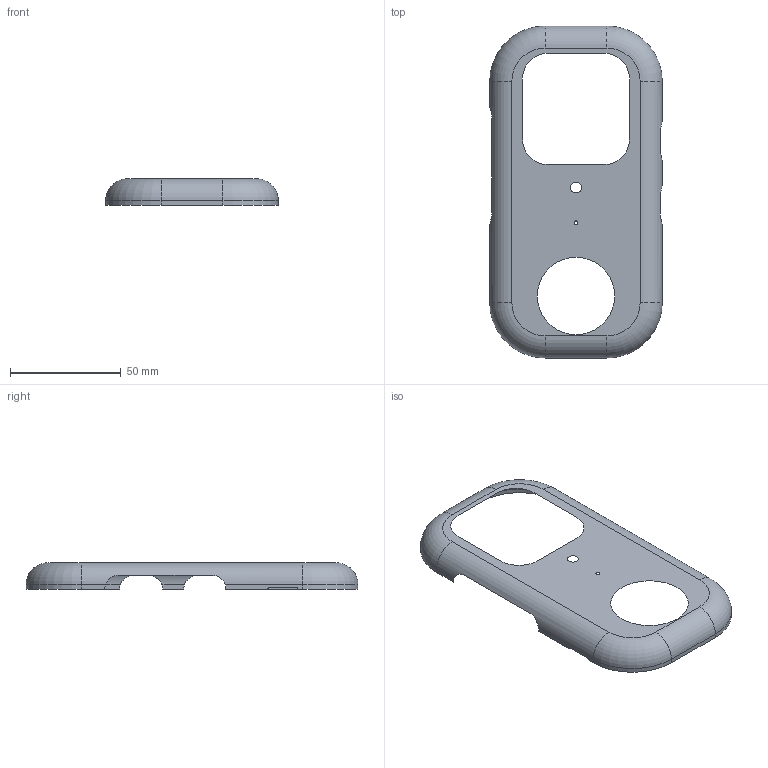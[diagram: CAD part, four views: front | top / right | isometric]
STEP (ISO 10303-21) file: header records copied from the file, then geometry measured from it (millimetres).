
FILE_DESCRIPTION(('Open CASCADE Model'),'2;1');
FILE_NAME('Open CASCADE Shape Model','2026-09-15T13:06:20',('Author'),( 'Open CASCADE'),'Open CASCADE STEP processor 7.7','Open CASCADE 7.7' ,'Unknown');
FILE_SCHEMA(('AUTOMOTIVE_DESIGN { 1 0 10303 214 1 1 1 1 }'));
Length unit declared in the file: millimetre
Products named in the file (21): Open CASCADE STEP translator 7.7 1; Open CASCADE STEP translator 7.7 1.1; Open CASCADE STEP translator 7.7 1.2; Open CASCADE STEP translator 7.7 1.3; Open CASCADE STEP translator 7.7 1.4; Open CASCADE STEP translator 7.7 1.5; Open CASCADE STEP translator 7.7 1.6; Open CASCADE STEP translator 7.7 1.7; Open CASCADE STEP translator 7.7 1.8; Open CASCADE STEP translator 7.7 1.9; Open CASCADE STEP translator 7.7 1.10; Open CASCADE STEP translator 7.7 1.11; Open CASCADE STEP translator 7.7 1.12; Open CASCADE STEP translator 7.7 1.13; Open CASCADE STEP translator 7.7 1.14; Open CASCADE STEP translator 7.7 1.15; Open CASCADE STEP translator 7.7 1.16; Open CASCADE STEP translator 7.7 1.17; Open CASCADE STEP translator 7.7 1.18; Open CASCADE STEP translator 7.7 1.19; Open CASCADE STEP translator 7.7 1.20
Assembly tree (20 placements, depth 2):
  Open CASCADE STEP translator 7.7 1
    Open CASCADE STEP translator 7.7 1.1
    Open CASCADE STEP translator 7.7 1.2
    Open CASCADE STEP translator 7.7 1.3
    Open CASCADE STEP translator 7.7 1.4
    Open CASCADE STEP translator 7.7 1.5
    Open CASCADE STEP translator 7.7 1.6
    Open CASCADE STEP translator 7.7 1.7
    Open CASCADE STEP translator 7.7 1.8
    Open CASCADE STEP translator 7.7 1.9
    Open CASCADE STEP translator 7.7 1.10
    Open CASCADE STEP translator 7.7 1.11
    Open CASCADE STEP translator 7.7 1.12
    Open CASCADE STEP translator 7.7 1.13
    Open CASCADE STEP translator 7.7 1.14
    Open CASCADE STEP translator 7.7 1.15
    Open CASCADE STEP translator 7.7 1.16
    Open CASCADE STEP translator 7.7 1.17
    Open CASCADE STEP translator 7.7 1.18
    Open CASCADE STEP translator 7.7 1.19
    Open CASCADE STEP translator 7.7 1.20
Bounding box: 78 x 150 x 12 mm (x, y, z)
Surface area: 10439.8 mm2 (no closed solid volume)
Topology: 0 solids, 20 shells, 20 faces, 127 edges, 127 vertices
Faces by surface type: cylinder 8, plane 8, torus 4
Entity records: 2889 total; most frequent: CARTESIAN_POINT 848, DIRECTION 356, LINE 156, VECTOR 156, ORIENTED_EDGE 127, EDGE_CURVE 127, VERTEX_POINT 127, SURFACE_CURVE 127
